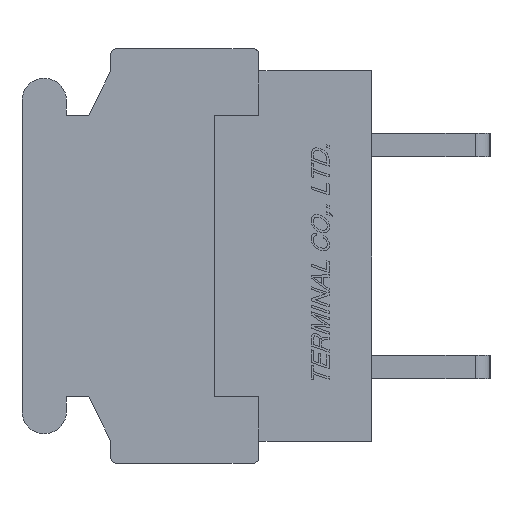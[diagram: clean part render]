
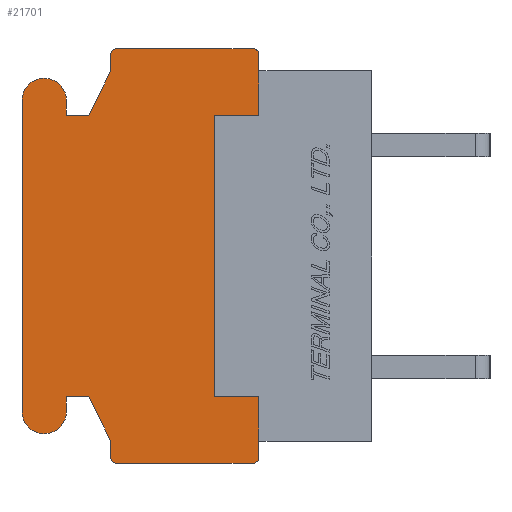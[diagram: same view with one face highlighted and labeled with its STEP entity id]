
A CAD part, left-side view. The second image highlights one B-rep face of the part: STEP entity #21701.
In plain terms, the highlighted planar face has unit normal (-1, 0, 0).
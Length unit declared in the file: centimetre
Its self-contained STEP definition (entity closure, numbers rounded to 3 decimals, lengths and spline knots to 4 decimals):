
#1135=CIRCLE('',#36521,0.02);
#1136=CIRCLE('',#36525,0.02);
#1137=CIRCLE('',#36528,0.02);
#1138=CIRCLE('',#36534,0.075);
#1139=CIRCLE('',#36537,0.075);
#1140=CIRCLE('',#36543,0.02);
#2955=VERTEX_POINT('',#33601);
#2956=VERTEX_POINT('',#33603);
#2957=VERTEX_POINT('',#33607);
#2958=VERTEX_POINT('',#33611);
#2959=VERTEX_POINT('',#33613);
#2960=VERTEX_POINT('',#33617);
#2961=VERTEX_POINT('',#33621);
#2962=VERTEX_POINT('',#33625);
#2963=VERTEX_POINT('',#33629);
#2964=VERTEX_POINT('',#33633);
#2965=VERTEX_POINT('',#33637);
#2966=VERTEX_POINT('',#33641);
#2967=VERTEX_POINT('',#33645);
#2968=VERTEX_POINT('',#33649);
#2969=VERTEX_POINT('',#33653);
#2970=VERTEX_POINT('',#33657);
#2971=VERTEX_POINT('',#33661);
#2972=VERTEX_POINT('',#33665);
#2973=VERTEX_POINT('',#33669);
#2974=VERTEX_POINT('',#33673);
#2975=VERTEX_POINT('',#33679);
#2976=VERTEX_POINT('',#33681);
#2977=VERTEX_POINT('',#33683);
#2978=VERTEX_POINT('',#33685);
#5301=VECTOR('',#26701,1.);
#5303=VECTOR('',#26704,1.);
#5307=VECTOR('',#26713,1.);
#5310=VECTOR('',#26721,1.);
#5312=VECTOR('',#26724,1.);
#5314=VECTOR('',#26727,1.);
#5316=VECTOR('',#26730,1.);
#5319=VECTOR('',#26738,1.);
#5322=VECTOR('',#26746,1.);
#5324=VECTOR('',#26749,1.);
#5326=VECTOR('',#26752,1.);
#5328=VECTOR('',#26755,1.);
#5330=VECTOR('',#26762,1.);
#5331=VECTOR('',#26764,1.);
#5332=VECTOR('',#26765,1.);
#5333=VECTOR('',#26766,1.);
#5334=VECTOR('',#26767,1.);
#5335=VECTOR('',#26768,1.);
#7725=LINE('',#33608,#5301);
#7727=LINE('',#33612,#5303);
#7731=LINE('',#33622,#5307);
#7734=LINE('',#33630,#5310);
#7736=LINE('',#33634,#5312);
#7738=LINE('',#33638,#5314);
#7740=LINE('',#33642,#5316);
#7743=LINE('',#33650,#5319);
#7746=LINE('',#33658,#5322);
#7748=LINE('',#33662,#5324);
#7750=LINE('',#33666,#5326);
#7752=LINE('',#33670,#5328);
#7754=LINE('',#33676,#5330);
#7755=LINE('',#33678,#5331);
#7756=LINE('',#33680,#5332);
#7757=LINE('',#33682,#5333);
#7758=LINE('',#33684,#5334);
#7759=LINE('',#33686,#5335);
#10901=EDGE_CURVE('',#2955,#2956,#1135,.T.);
#10904=EDGE_CURVE('',#2957,#2955,#7725,.T.);
#10906=EDGE_CURVE('',#2958,#2959,#7727,.T.);
#10909=EDGE_CURVE('',#2960,#2958,#1136,.T.);
#10911=EDGE_CURVE('',#2961,#2960,#7731,.T.);
#10913=EDGE_CURVE('',#2962,#2961,#1137,.T.);
#10915=EDGE_CURVE('',#2963,#2962,#7734,.T.);
#10917=EDGE_CURVE('',#2964,#2963,#7736,.T.);
#10919=EDGE_CURVE('',#2965,#2964,#7738,.T.);
#10921=EDGE_CURVE('',#2966,#2965,#7740,.T.);
#10923=EDGE_CURVE('',#2967,#2966,#1138,.T.);
#10925=EDGE_CURVE('',#2968,#2967,#7743,.T.);
#10927=EDGE_CURVE('',#2969,#2968,#1139,.T.);
#10929=EDGE_CURVE('',#2970,#2969,#7746,.T.);
#10931=EDGE_CURVE('',#2971,#2970,#7748,.T.);
#10933=EDGE_CURVE('',#2972,#2971,#7750,.T.);
#10935=EDGE_CURVE('',#2973,#2972,#7752,.T.);
#10937=EDGE_CURVE('',#2974,#2973,#1140,.T.);
#10938=EDGE_CURVE('',#2956,#2974,#7754,.T.);
#10939=EDGE_CURVE('',#2975,#2959,#7755,.T.);
#10940=EDGE_CURVE('',#2957,#2976,#7756,.T.);
#10941=EDGE_CURVE('',#2976,#2977,#7757,.T.);
#10942=EDGE_CURVE('',#2977,#2978,#7758,.T.);
#10943=EDGE_CURVE('',#2978,#2975,#7759,.T.);
#16895=ORIENTED_EDGE('',*,*,#10939,.T.);
#16896=ORIENTED_EDGE('',*,*,#10906,.F.);
#16897=ORIENTED_EDGE('',*,*,#10909,.F.);
#16898=ORIENTED_EDGE('',*,*,#10911,.F.);
#16899=ORIENTED_EDGE('',*,*,#10913,.F.);
#16900=ORIENTED_EDGE('',*,*,#10915,.F.);
#16901=ORIENTED_EDGE('',*,*,#10917,.F.);
#16902=ORIENTED_EDGE('',*,*,#10919,.F.);
#16903=ORIENTED_EDGE('',*,*,#10921,.F.);
#16904=ORIENTED_EDGE('',*,*,#10923,.F.);
#16905=ORIENTED_EDGE('',*,*,#10925,.F.);
#16906=ORIENTED_EDGE('',*,*,#10927,.F.);
#16907=ORIENTED_EDGE('',*,*,#10929,.F.);
#16908=ORIENTED_EDGE('',*,*,#10931,.F.);
#16909=ORIENTED_EDGE('',*,*,#10933,.F.);
#16910=ORIENTED_EDGE('',*,*,#10935,.F.);
#16911=ORIENTED_EDGE('',*,*,#10937,.F.);
#16912=ORIENTED_EDGE('',*,*,#10938,.F.);
#16913=ORIENTED_EDGE('',*,*,#10901,.F.);
#16914=ORIENTED_EDGE('',*,*,#10904,.F.);
#16915=ORIENTED_EDGE('',*,*,#10940,.T.);
#16916=ORIENTED_EDGE('',*,*,#10941,.T.);
#16917=ORIENTED_EDGE('',*,*,#10942,.T.);
#16918=ORIENTED_EDGE('',*,*,#10943,.T.);
#19122=EDGE_LOOP('',(#16895,#16896,#16897,#16898,#16899,#16900,#16901,#16902,
#16903,#16904,#16905,#16906,#16907,#16908,#16909,#16910,#16911,#16912,#16913,
#16914,#16915,#16916,#16917,#16918));
#20446=FACE_BOUND('',#19122,.T.);
#21701=ADVANCED_FACE('',(#20446),#22615,.F.);
#22615=PLANE('',#36545);
#26696=DIRECTION('',(1.,0.,0.));
#26697=DIRECTION('',(0.,0.,-0.02));
#26701=DIRECTION('',(0.,0.,-1.));
#26704=DIRECTION('',(0.,0.,-1.));
#26709=DIRECTION('',(1.,0.,0.));
#26710=DIRECTION('',(0.,0.,-0.02));
#26713=DIRECTION('',(0.,-1.,0.));
#26717=DIRECTION('',(1.,0.,0.));
#26718=DIRECTION('',(0.,0.,-0.02));
#26721=DIRECTION('',(0.,0.,1.));
#26724=DIRECTION('',(0.,-0.447,0.894));
#26727=DIRECTION('',(0.,-1.,0.));
#26730=DIRECTION('',(0.,0.,-1.));
#26734=DIRECTION('',(1.,0.,0.));
#26735=DIRECTION('',(0.,0.,-0.075));
#26738=DIRECTION('',(0.,0.,1.));
#26742=DIRECTION('',(1.,0.,0.));
#26743=DIRECTION('',(0.,0.,-0.075));
#26746=DIRECTION('',(0.,0.,-1.));
#26749=DIRECTION('',(0.,1.,0.));
#26752=DIRECTION('',(0.,0.447,0.894));
#26755=DIRECTION('',(0.,0.,1.));
#26759=DIRECTION('',(1.,0.,0.));
#26760=DIRECTION('',(0.,0.,-0.02));
#26762=DIRECTION('',(0.,1.,0.));
#26763=DIRECTION('',(1.,0.,0.));
#26764=DIRECTION('',(0.,0.,1.));
#26765=DIRECTION('',(0.,0.,1.));
#26766=DIRECTION('',(0.,1.,0.));
#26767=DIRECTION('',(0.,0.,1.));
#26768=DIRECTION('',(0.,-1.,0.));
#33601=CARTESIAN_POINT('',(-0.762,0.38,-0.68));
#33602=CARTESIAN_POINT('',(-0.762,0.4,-0.68));
#33603=CARTESIAN_POINT('',(-0.762,0.4,-0.7));
#33607=CARTESIAN_POINT('',(-0.762,0.38,-0.625));
#33608=CARTESIAN_POINT('',(-0.762,0.38,-0.625));
#33611=CARTESIAN_POINT('',(-0.762,0.38,0.68));
#33612=CARTESIAN_POINT('',(-0.762,0.38,0.68));
#33613=CARTESIAN_POINT('',(-0.762,0.38,0.625));
#33617=CARTESIAN_POINT('',(-0.762,0.4,0.7));
#33618=CARTESIAN_POINT('',(-0.762,0.4,0.68));
#33621=CARTESIAN_POINT('',(-0.762,0.86,0.7));
#33622=CARTESIAN_POINT('',(-0.762,0.86,0.7));
#33625=CARTESIAN_POINT('',(-0.762,0.88,0.68));
#33626=CARTESIAN_POINT('',(-0.762,0.86,0.68));
#33629=CARTESIAN_POINT('',(-0.762,0.88,0.625));
#33630=CARTESIAN_POINT('',(-0.762,0.88,0.625));
#33633=CARTESIAN_POINT('',(-0.762,0.955,0.475));
#33634=CARTESIAN_POINT('',(-0.762,0.955,0.475));
#33637=CARTESIAN_POINT('',(-0.762,1.03,0.475));
#33638=CARTESIAN_POINT('',(-0.762,1.03,0.475));
#33641=CARTESIAN_POINT('',(-0.762,1.03,0.525));
#33642=CARTESIAN_POINT('',(-0.762,1.03,0.525));
#33645=CARTESIAN_POINT('',(-0.762,1.18,0.525));
#33646=CARTESIAN_POINT('',(-0.762,1.105,0.525));
#33649=CARTESIAN_POINT('',(-0.762,1.18,-0.525));
#33650=CARTESIAN_POINT('',(-0.762,1.18,-0.525));
#33653=CARTESIAN_POINT('',(-0.762,1.03,-0.525));
#33654=CARTESIAN_POINT('',(-0.762,1.105,-0.525));
#33657=CARTESIAN_POINT('',(-0.762,1.03,-0.475));
#33658=CARTESIAN_POINT('',(-0.762,1.03,-0.475));
#33661=CARTESIAN_POINT('',(-0.762,0.955,-0.475));
#33662=CARTESIAN_POINT('',(-0.762,0.955,-0.475));
#33665=CARTESIAN_POINT('',(-0.762,0.88,-0.625));
#33666=CARTESIAN_POINT('',(-0.762,0.88,-0.625));
#33669=CARTESIAN_POINT('',(-0.762,0.88,-0.68));
#33670=CARTESIAN_POINT('',(-0.762,0.88,-0.68));
#33673=CARTESIAN_POINT('',(-0.762,0.86,-0.7));
#33674=CARTESIAN_POINT('',(-0.762,0.86,-0.68));
#33676=CARTESIAN_POINT('',(-0.762,0.4,-0.7));
#33677=CARTESIAN_POINT('',(-0.762,0.6059,0.));
#33678=CARTESIAN_POINT('',(-0.762,0.38,0.475));
#33679=CARTESIAN_POINT('',(-0.762,0.38,0.475));
#33680=CARTESIAN_POINT('',(-0.762,0.38,-0.625));
#33681=CARTESIAN_POINT('',(-0.762,0.38,-0.475));
#33682=CARTESIAN_POINT('',(-0.762,0.38,-0.475));
#33683=CARTESIAN_POINT('',(-0.762,0.53,-0.475));
#33684=CARTESIAN_POINT('',(-0.762,0.53,-0.475));
#33685=CARTESIAN_POINT('',(-0.762,0.53,0.475));
#33686=CARTESIAN_POINT('',(-0.762,0.53,0.475));
#36521=AXIS2_PLACEMENT_3D('',#33602,#26696,#26697);
#36525=AXIS2_PLACEMENT_3D('',#33618,#26709,#26710);
#36528=AXIS2_PLACEMENT_3D('',#33626,#26717,#26718);
#36534=AXIS2_PLACEMENT_3D('',#33646,#26734,#26735);
#36537=AXIS2_PLACEMENT_3D('',#33654,#26742,#26743);
#36543=AXIS2_PLACEMENT_3D('',#33674,#26759,#26760);
#36545=AXIS2_PLACEMENT_3D('',#33677,#26763,$);
